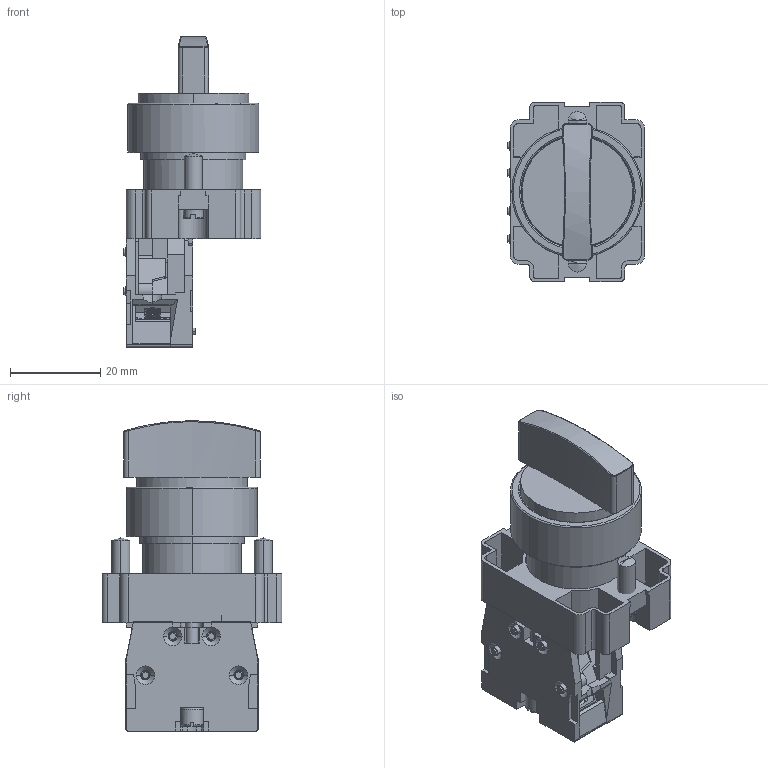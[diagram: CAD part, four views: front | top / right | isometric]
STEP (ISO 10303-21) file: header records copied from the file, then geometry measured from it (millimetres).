
FILE_DESCRIPTION((''),'2;1');
FILE_NAME('MCADID0005105_3D-SIMPLIFIED_ASM','2023-01-26T11:51:41',('frederic.bon'),(''),'CREO PARAMETRIC BY PTC INC, 2018260','CREO PARAMETRIC BY PTC INC, 2018260','');
FILE_SCHEMA(('CONFIG_CONTROL_DESIGN'));
Length unit declared in the file: millimetre
Products named in the file (31): SS_PUSHER_1_1_1; SS_RING_1_1_1; SS_INNERSEAL_1_1_1; SS_HANDLE_2_1_1; SS_SHELL_1_1_1; SS_SPRING_AF0_1_1_1; SWITCHING_OFF_OUTER_SEAL_1_1_1; SS_SCREW_1_1_1; BASE_1_1_1; 043079600A50_1_1_1; 0413706_2_1_1; 0413707_2_1_1; 0413710_1_1_1; 041371201AF6_2_1_1; 041371200AF7_ASM_2_ASM_1_ASM_1_ASM; W10364225_VIS_SEULE_2_1_1; W10332221_2_1_1; SCREW_MIG02_ASM_2_ASM_1_ASM_1_ASM; COMPRESSED_2_1_1; COMPRESSD_2_1_1; 0430794_2_1_1; 0413713_2_1_1; 0431175_ASM_1_ASM_1_ASM_1_ASM; SELECTOR_SWITCH_HEAD_ASM_2_ASM__ASM; XB2BD21C_ASM_1_ASM_1_ASM; SIMPLIFIED_ASM_1_ASM_1_ASM; ASM0001_ASM_1_ASM; SCREW_1; PRT0008_1; MCADID0005105_3D-SIMPLIFIED_ASM_ASM; MCADID0005105_3D-SIMPLIFIED_ASM
Assembly tree (32 placements, depth 9):
  MCADID0005105_3D-SIMPLIFIED_ASM
    MCADID0005105_3D-SIMPLIFIED_ASM_ASM
      ASM0001_ASM_1_ASM
        SIMPLIFIED_ASM_1_ASM_1_ASM
          XB2BD21C_ASM_1_ASM_1_ASM
            SELECTOR_SWITCH_HEAD_ASM_2_ASM__ASM
              SS_PUSHER_1_1_1
              SS_RING_1_1_1
              SS_INNERSEAL_1_1_1
              SS_HANDLE_2_1_1
              SS_SHELL_1_1_1
              SS_SPRING_AF0_1_1_1
              SWITCHING_OFF_OUTER_SEAL_1_1_1
              SS_SCREW_1_1_1
              BASE_1_1_1
              0431175_ASM_1_ASM_1_ASM_1_ASM
                043079600A50_1_1_1
                0413706_2_1_1
                0413707_2_1_1
                0413710_1_1_1
                041371200AF7_ASM_2_ASM_1_ASM_1_ASM
                  041371201AF6_2_1_1  x2
                SCREW_MIG02_ASM_2_ASM_1_ASM_1_ASM  x2
                  W10364225_VIS_SEULE_2_1_1
                  W10332221_2_1_1
                COMPRESSED_2_1_1
                COMPRESSD_2_1_1
                0430794_2_1_1
                0413713_2_1_1
      SCREW_1
      PRT0008_1
Bounding box: 30.4 x 39.8 x 68.7 mm (x, y, z)
Volume: 21590.4 mm3; surface area: 29157.9 mm2
Topology: 25 solids, 29 shells, 2091 faces, 5754 edges, 3712 vertices
Faces by surface type: plane 1074, cylinder 494, bspline 210, cone 193, torus 86, sphere 34
Entity records: 76371 total; most frequent: CARTESIAN_POINT 28366, ORIENTED_EDGE 10272, DIRECTION 9598, EDGE_CURVE 5144, VERTEX_POINT 3357, AXIS2_PLACEMENT_3D 3288, VECTOR 3022, LINE 3022
